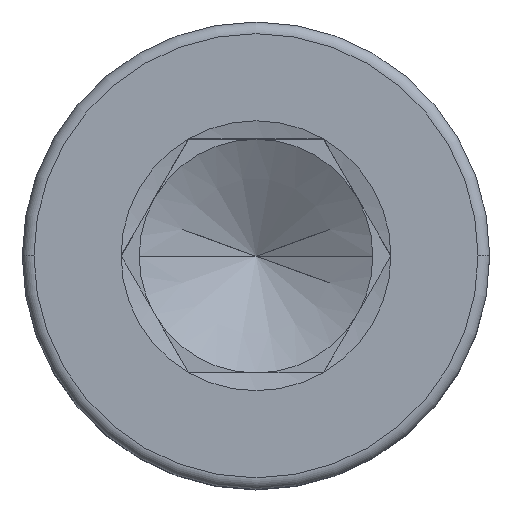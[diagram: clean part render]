
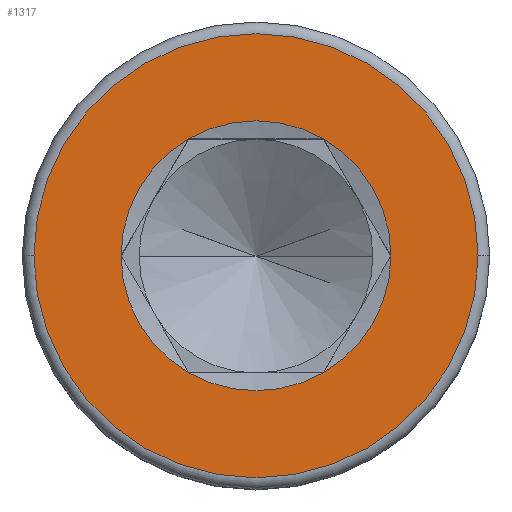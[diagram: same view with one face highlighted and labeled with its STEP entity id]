
A CAD part, top view. The second image highlights one B-rep face of the part: STEP entity #1317.
In plain terms, the highlighted planar face has unit normal (0, 0, 1).
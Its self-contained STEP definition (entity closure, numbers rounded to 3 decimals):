
#8 = AXIS2_PLACEMENT_3D ( 'NONE', #723, #1492, #944 ) ;
#42 = AXIS2_PLACEMENT_3D ( 'NONE', #1554, #782, #1295 ) ;
#75 = CARTESIAN_POINT ( 'NONE',  ( 0., 0., 6. ) ) ;
#95 = CARTESIAN_POINT ( 'NONE',  ( 4.75, 0., 6. ) ) ;
#115 = EDGE_CURVE ( 'NONE', #1561, #1397, #148, .T. ) ;
#116 = CARTESIAN_POINT ( 'NONE',  ( -2.887, 0., 6. ) ) ;
#118 = DIRECTION ( 'NONE',  ( 1., 0., 0. ) ) ;
#130 = CARTESIAN_POINT ( 'NONE',  ( 0., 0., 6. ) ) ;
#148 = CIRCLE ( 'NONE', #589, 2.887 ) ;
#197 = EDGE_CURVE ( 'NONE', #1458, #1185, #678, .T. ) ;
#199 = CARTESIAN_POINT ( 'NONE',  ( -1.443, 2.5, 6. ) ) ;
#209 = PLANE ( 'NONE',  #790 ) ;
#250 = ORIENTED_EDGE ( 'NONE', *, *, #1508, .F. ) ;
#299 = EDGE_CURVE ( 'NONE', #1067, #877, #1512, .T. ) ;
#361 = DIRECTION ( 'NONE',  ( 1., 0., 0. ) ) ;
#405 = DIRECTION ( 'NONE',  ( 1., 0., 0. ) ) ;
#415 = DIRECTION ( 'NONE',  ( 0., 0., 1. ) ) ;
#419 = EDGE_CURVE ( 'NONE', #1185, #1458, #1055, .T. ) ;
#423 = AXIS2_PLACEMENT_3D ( 'NONE', #633, #732, #361 ) ;
#437 = FACE_OUTER_BOUND ( 'NONE', #1091, .T. ) ;
#487 = DIRECTION ( 'NONE',  ( 1., 0., 0. ) ) ;
#526 = DIRECTION ( 'NONE',  ( 0., 0., 1. ) ) ;
#546 = ORIENTED_EDGE ( 'NONE', *, *, #1263, .F. ) ;
#558 = ORIENTED_EDGE ( 'NONE', *, *, #197, .T. ) ;
#563 = DIRECTION ( 'NONE',  ( 1., 0., 0. ) ) ;
#589 = AXIS2_PLACEMENT_3D ( 'NONE', #130, #526, #405 ) ;
#633 = CARTESIAN_POINT ( 'NONE',  ( 0., 0., 6. ) ) ;
#678 = CIRCLE ( 'NONE', #8, 4.75 ) ;
#723 = CARTESIAN_POINT ( 'NONE',  ( 0., 0., 6. ) ) ;
#732 = DIRECTION ( 'NONE',  ( 0., 0., 1. ) ) ;
#782 = DIRECTION ( 'NONE',  ( 0., 0., 1. ) ) ;
#790 = AXIS2_PLACEMENT_3D ( 'NONE', #828, #965, #563 ) ;
#792 = CIRCLE ( 'NONE', #1573, 2.887 ) ;
#797 = ORIENTED_EDGE ( 'NONE', *, *, #1130, .F. ) ;
#828 = CARTESIAN_POINT ( 'NONE',  ( 0., 0., 6. ) ) ;
#838 = CARTESIAN_POINT ( 'NONE',  ( -1.443, -2.5, 6. ) ) ;
#848 = DIRECTION ( 'NONE',  ( 1., 0., 0. ) ) ;
#849 = EDGE_LOOP ( 'NONE', ( #1651, #903, #546, #1183, #250, #797 ) ) ;
#877 = VERTEX_POINT ( 'NONE', #838 ) ;
#903 = ORIENTED_EDGE ( 'NONE', *, *, #115, .F. ) ;
#944 = DIRECTION ( 'NONE',  ( 1., 0., 0. ) ) ;
#965 = DIRECTION ( 'NONE',  ( 0., 0., 1. ) ) ;
#999 = DIRECTION ( 'NONE',  ( 0., 0., 1. ) ) ;
#1055 = CIRCLE ( 'NONE', #423, 4.75 ) ;
#1067 = VERTEX_POINT ( 'NONE', #116 ) ;
#1076 = CARTESIAN_POINT ( 'NONE',  ( 0., 0., 6. ) ) ;
#1091 = EDGE_LOOP ( 'NONE', ( #558, #1455 ) ) ;
#1109 = CIRCLE ( 'NONE', #42, 2.887 ) ;
#1116 = FACE_BOUND ( 'NONE', #849, .T. ) ;
#1130 = EDGE_CURVE ( 'NONE', #1310, #1342, #1109, .T. ) ;
#1156 = DIRECTION ( 'NONE',  ( 0., 0., 1. ) ) ;
#1163 = AXIS2_PLACEMENT_3D ( 'NONE', #1076, #1601, #848 ) ;
#1183 = ORIENTED_EDGE ( 'NONE', *, *, #299, .F. ) ;
#1185 = VERTEX_POINT ( 'NONE', #1340 ) ;
#1263 = EDGE_CURVE ( 'NONE', #877, #1561, #1546, .T. ) ;
#1295 = DIRECTION ( 'NONE',  ( 1., 0., 0. ) ) ;
#1303 = AXIS2_PLACEMENT_3D ( 'NONE', #75, #1156, #118 ) ;
#1310 = VERTEX_POINT ( 'NONE', #1604 ) ;
#1317 = ADVANCED_FACE ( 'NONE', ( #437, #1116 ), #209, .T. ) ;
#1340 = CARTESIAN_POINT ( 'NONE',  ( -4.75, 0., 6. ) ) ;
#1342 = VERTEX_POINT ( 'NONE', #199 ) ;
#1345 = CARTESIAN_POINT ( 'NONE',  ( 2.887, 0., 6. ) ) ;
#1397 = VERTEX_POINT ( 'NONE', #1345 ) ;
#1419 = CARTESIAN_POINT ( 'NONE',  ( 1.443, -2.5, 6. ) ) ;
#1455 = ORIENTED_EDGE ( 'NONE', *, *, #419, .T. ) ;
#1458 = VERTEX_POINT ( 'NONE', #95 ) ;
#1492 = DIRECTION ( 'NONE',  ( 0., 0., 1. ) ) ;
#1508 = EDGE_CURVE ( 'NONE', #1342, #1067, #792, .T. ) ;
#1512 = CIRCLE ( 'NONE', #1163, 2.887 ) ;
#1546 = CIRCLE ( 'NONE', #1596, 2.887 ) ;
#1554 = CARTESIAN_POINT ( 'NONE',  ( 0., 0., 6. ) ) ;
#1561 = VERTEX_POINT ( 'NONE', #1419 ) ;
#1567 = DIRECTION ( 'NONE',  ( 1., 0., 0. ) ) ;
#1573 = AXIS2_PLACEMENT_3D ( 'NONE', #1636, #999, #487 ) ;
#1582 = CARTESIAN_POINT ( 'NONE',  ( 0., 0., 6. ) ) ;
#1596 = AXIS2_PLACEMENT_3D ( 'NONE', #1582, #415, #1567 ) ;
#1597 = CIRCLE ( 'NONE', #1303, 2.887 ) ;
#1601 = DIRECTION ( 'NONE',  ( 0., 0., 1. ) ) ;
#1604 = CARTESIAN_POINT ( 'NONE',  ( 1.443, 2.5, 6. ) ) ;
#1609 = EDGE_CURVE ( 'NONE', #1397, #1310, #1597, .T. ) ;
#1636 = CARTESIAN_POINT ( 'NONE',  ( 0., 0., 6. ) ) ;
#1651 = ORIENTED_EDGE ( 'NONE', *, *, #1609, .F. ) ;
